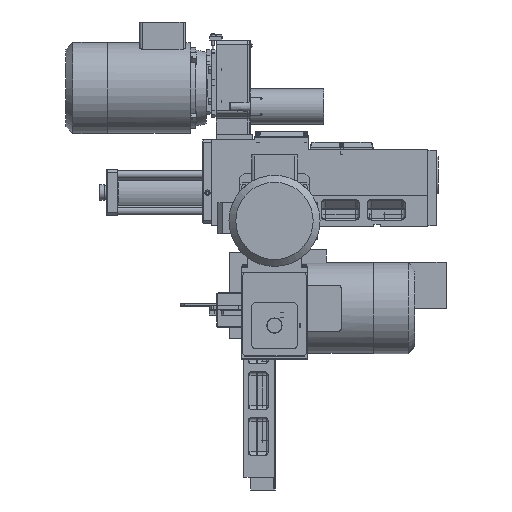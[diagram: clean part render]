
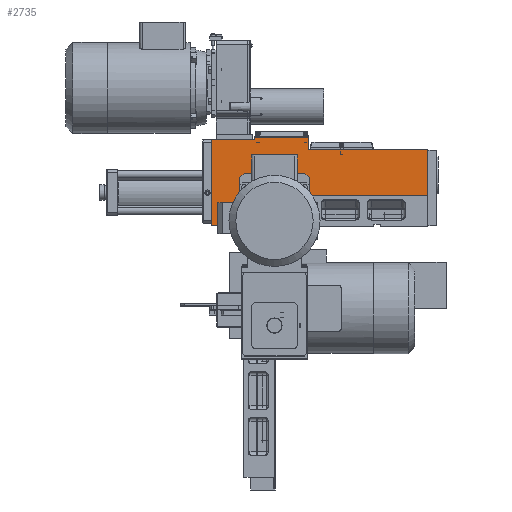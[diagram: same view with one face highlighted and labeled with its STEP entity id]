
A CAD part, front view. The second image highlights one B-rep face of the part: STEP entity #2735.
In plain terms, the highlighted planar face has unit normal (0, -1, 0).
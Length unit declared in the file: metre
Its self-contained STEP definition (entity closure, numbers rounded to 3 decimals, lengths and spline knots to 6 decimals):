
#2735 = ADVANCED_FACE( '', ( #4552 ), #4553, .T. );
#4552 = FACE_OUTER_BOUND( '', #8605, .T. );
#4553 = PLANE( '', #8606 );
#8605 = EDGE_LOOP( '', ( #14078, #14079, #14080, #14081, #14082, #14083, #14084, #14085, #14086, #14087 ) );
#8606 = AXIS2_PLACEMENT_3D( '', #14088, #14089, #14090 );
#14078 = ORIENTED_EDGE( '', *, *, #17656, .T. );
#14079 = ORIENTED_EDGE( '', *, *, #17663, .T. );
#14080 = ORIENTED_EDGE( '', *, *, #17670, .F. );
#14081 = ORIENTED_EDGE( '', *, *, #17642, .T. );
#14082 = ORIENTED_EDGE( '', *, *, #17668, .T. );
#14083 = ORIENTED_EDGE( '', *, *, #17654, .T. );
#14084 = ORIENTED_EDGE( '', *, *, #17671, .T. );
#14085 = ORIENTED_EDGE( '', *, *, #17672, .T. );
#14086 = ORIENTED_EDGE( '', *, *, #17673, .T. );
#14087 = ORIENTED_EDGE( '', *, *, #17635, .T. );
#14088 = CARTESIAN_POINT( '', ( 0.337, -0.003889, 0. ) );
#14089 = DIRECTION( '', ( 0., -1., 0. ) );
#14090 = DIRECTION( '', ( 1., 0., 0. ) );
#17635 = EDGE_CURVE( '', #20494, #20498, #20500, .T. );
#17642 = EDGE_CURVE( '', #20512, #20510, #20513, .T. );
#17654 = EDGE_CURVE( '', #20534, #20532, #20535, .T. );
#17656 = EDGE_CURVE( '', #20498, #20537, #20538, .T. );
#17663 = EDGE_CURVE( '', #20537, #20546, #20548, .T. );
#17668 = EDGE_CURVE( '', #20510, #20534, #20555, .T. );
#17670 = EDGE_CURVE( '', #20512, #20546, #20557, .T. );
#17671 = EDGE_CURVE( '', #20532, #20558, #20559, .T. );
#17672 = EDGE_CURVE( '', #20558, #20560, #20561, .T. );
#17673 = EDGE_CURVE( '', #20560, #20494, #20562, .T. );
#20494 = VERTEX_POINT( '', #26191 );
#20498 = VERTEX_POINT( '', #26197 );
#20500 = LINE( '', #26200, #26201 );
#20510 = VERTEX_POINT( '', #26216 );
#20512 = VERTEX_POINT( '', #26219 );
#20513 = LINE( '', #26220, #26221 );
#20532 = VERTEX_POINT( '', #26250 );
#20534 = VERTEX_POINT( '', #26253 );
#20535 = LINE( '', #26254, #26255 );
#20537 = VERTEX_POINT( '', #26258 );
#20538 = LINE( '', #26259, #26260 );
#20546 = VERTEX_POINT( '', #26273 );
#20548 = LINE( '', #26276, #26277 );
#20555 = LINE( '', #26288, #26289 );
#20557 = LINE( '', #26292, #26293 );
#20558 = VERTEX_POINT( '', #26294 );
#20559 = LINE( '', #26295, #26296 );
#20560 = VERTEX_POINT( '', #26297 );
#20561 = LINE( '', #26298, #26299 );
#20562 = LINE( '', #26300, #26301 );
#26191 = CARTESIAN_POINT( '', ( -0.003, -0.003889, 0.115 ) );
#26197 = CARTESIAN_POINT( '', ( -0.003, -0.003889, 0.11 ) );
#26200 = CARTESIAN_POINT( '', ( -0.003, -0.003889, 0.058735 ) );
#26201 = VECTOR( '', #29605, 1. );
#26216 = CARTESIAN_POINT( '', ( -0.005, -0.003889, 0. ) );
#26219 = CARTESIAN_POINT( '', ( -0.005, -0.003889, -0.059 ) );
#26220 = CARTESIAN_POINT( '', ( -0.005, -0.003889, -0.059 ) );
#26221 = VECTOR( '', #29612, 1. );
#26250 = CARTESIAN_POINT( '', ( 0.337, -0.003889, 0.09 ) );
#26253 = CARTESIAN_POINT( '', ( 0.337, -0.003889, 0. ) );
#26254 = CARTESIAN_POINT( '', ( 0.337, -0.003889, 0. ) );
#26255 = VECTOR( '', #29624, 1. );
#26258 = CARTESIAN_POINT( '', ( -0.088, -0.003889, 0.11 ) );
#26259 = CARTESIAN_POINT( '', ( 0.14575, -0.003889, 0.11 ) );
#26260 = VECTOR( '', #29626, 1. );
#26273 = CARTESIAN_POINT( '', ( -0.088, -0.003889, -0.059 ) );
#26276 = CARTESIAN_POINT( '', ( -0.088, -0.003889, -0.059 ) );
#26277 = VECTOR( '', #29633, 1. );
#26288 = CARTESIAN_POINT( '', ( -0.005, -0.003889, 0. ) );
#26289 = VECTOR( '', #29638, 1. );
#26292 = CARTESIAN_POINT( '', ( -0.005, -0.003889, -0.059 ) );
#26293 = VECTOR( '', #29640, 1. );
#26294 = CARTESIAN_POINT( '', ( 0.102, -0.003889, 0.09 ) );
#26295 = CARTESIAN_POINT( '', ( -0.005, -0.003889, 0.09 ) );
#26296 = VECTOR( '', #29641, 1. );
#26297 = CARTESIAN_POINT( '', ( 0.102, -0.003889, 0.115 ) );
#26298 = CARTESIAN_POINT( '', ( 0.102, -0.003889, 0.09 ) );
#26299 = VECTOR( '', #29642, 1. );
#26300 = CARTESIAN_POINT( '', ( -0.005, -0.003889, 0.115 ) );
#26301 = VECTOR( '', #29643, 1. );
#29605 = DIRECTION( '', ( 0., 0., -1. ) );
#29612 = DIRECTION( '', ( 0., 0., 1. ) );
#29624 = DIRECTION( '', ( 0., 0., 1. ) );
#29626 = DIRECTION( '', ( -1., 0., 0. ) );
#29633 = DIRECTION( '', ( 0., 0., -1. ) );
#29638 = DIRECTION( '', ( 1., 0., 0. ) );
#29640 = DIRECTION( '', ( -1., 0., 0. ) );
#29641 = DIRECTION( '', ( -1., 0., 0. ) );
#29642 = DIRECTION( '', ( 0., 0., 1. ) );
#29643 = DIRECTION( '', ( -1., 0., 0. ) );
